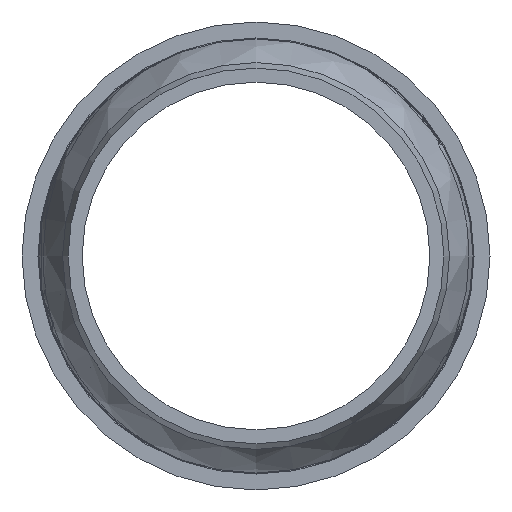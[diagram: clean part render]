
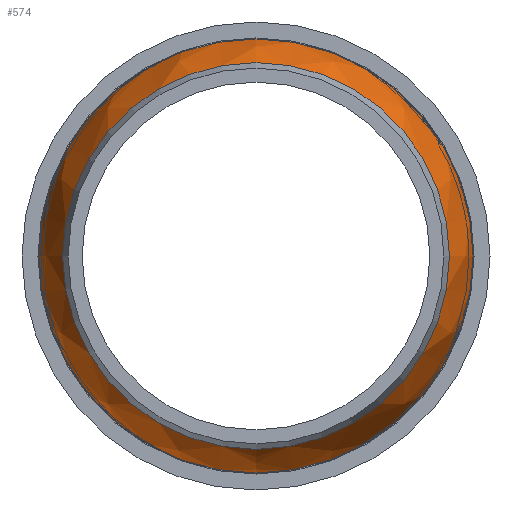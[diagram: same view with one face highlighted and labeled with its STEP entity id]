
A CAD part, left-side view. The second image highlights one B-rep face of the part: STEP entity #574.
In plain terms, the highlighted free-form (B-spline) face has degree [2, 2] with [3, 9] control points.
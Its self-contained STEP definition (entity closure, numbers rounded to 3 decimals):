
#12=(
BOUNDED_CURVE()
B_SPLINE_CURVE(2,(#2121,#2122,#2123),.UNSPECIFIED.,.F.,.F.)
B_SPLINE_CURVE_WITH_KNOTS((3,3),(0.097,0.624),
 .UNSPECIFIED.)
CURVE()
GEOMETRIC_REPRESENTATION_ITEM()
RATIONAL_B_SPLINE_CURVE((1.,0.965,1.))
REPRESENTATION_ITEM('')
);
#14=(
BOUNDED_SURFACE()
B_SPLINE_SURFACE(2,2,((#2094,#2095,#2096,#2097,#2098,#2099,#2100,#2101,
#2102),(#2103,#2104,#2105,#2106,#2107,#2108,#2109,#2110,#2111),(#2112,#2113,
#2114,#2115,#2116,#2117,#2118,#2119,#2120)),.UNSPECIFIED.,.F.,.T.,.F.)
B_SPLINE_SURFACE_WITH_KNOTS((3,3),(3,2,2,2,3),(-0.624,-0.097),
(-3.142,-1.571,0.,1.571,3.142),
 .UNSPECIFIED.)
GEOMETRIC_REPRESENTATION_ITEM()
RATIONAL_B_SPLINE_SURFACE(((1.,0.707,1.,0.707,1.,
0.707,1.,0.707,1.),(0.965,0.683,
0.965,0.683,0.965,0.683,
0.965,0.683,0.965),(1.,0.707,
1.,0.707,1.,0.707,1.,0.707,1.)))
REPRESENTATION_ITEM('')
SURFACE()
);
#147=FACE_OUTER_BOUND('',#206,.T.);
#206=EDGE_LOOP('',(#480,#481,#482,#483,#484,#485,#486));
#234=CIRCLE('',#616,42.2);
#235=CIRCLE('',#617,42.2);
#236=CIRCLE('',#618,42.2);
#242=CIRCLE('',#637,37.6);
#243=CIRCLE('',#638,37.6);
#278=VERTEX_POINT('',#1437);
#287=VERTEX_POINT('',#1829);
#288=VERTEX_POINT('',#1830);
#299=VERTEX_POINT('',#2090);
#300=VERTEX_POINT('',#2091);
#349=EDGE_CURVE('',#287,#288,#234,.T.);
#350=EDGE_CURVE('',#288,#278,#235,.T.);
#351=EDGE_CURVE('',#278,#287,#236,.T.);
#363=EDGE_CURVE('',#299,#300,#242,.T.);
#364=EDGE_CURVE('',#300,#299,#243,.T.);
#365=EDGE_CURVE('',#288,#300,#12,.T.);
#480=ORIENTED_EDGE('',*,*,#349,.F.);
#481=ORIENTED_EDGE('',*,*,#351,.F.);
#482=ORIENTED_EDGE('',*,*,#350,.F.);
#483=ORIENTED_EDGE('',*,*,#365,.T.);
#484=ORIENTED_EDGE('',*,*,#364,.T.);
#485=ORIENTED_EDGE('',*,*,#363,.T.);
#486=ORIENTED_EDGE('',*,*,#365,.F.);
#574=ADVANCED_FACE('',(#147),#14,.F.);
#616=AXIS2_PLACEMENT_3D('',#1831,#712,#713);
#617=AXIS2_PLACEMENT_3D('',#1832,#714,#715);
#618=AXIS2_PLACEMENT_3D('',#1833,#716,#717);
#637=AXIS2_PLACEMENT_3D('',#2092,#754,#755);
#638=AXIS2_PLACEMENT_3D('',#2093,#756,#757);
#712=DIRECTION('center_axis',(1.,0.,0.));
#713=DIRECTION('ref_axis',(0.,0.,
1.));
#714=DIRECTION('center_axis',(1.,0.,0.));
#715=DIRECTION('ref_axis',(0.,0.,
1.));
#716=DIRECTION('center_axis',(1.,0.,0.));
#717=DIRECTION('ref_axis',(0.,0.,
1.));
#754=DIRECTION('center_axis',(1.,0.,0.));
#755=DIRECTION('ref_axis',(0.,0.,
1.));
#756=DIRECTION('center_axis',(1.,0.,0.));
#757=DIRECTION('ref_axis',(0.,0.,
1.));
#1437=CARTESIAN_POINT('',(1008.8,42.2,0.));
#1829=CARTESIAN_POINT('',(1008.8,-42.2,0.));
#1830=CARTESIAN_POINT('',(1008.8,0.,-42.2));
#1831=CARTESIAN_POINT('Origin',(1008.8,0.,
0.));
#1832=CARTESIAN_POINT('Origin',(1008.8,0.,
0.));
#1833=CARTESIAN_POINT('Origin',(1008.8,0.,
0.));
#2090=CARTESIAN_POINT('',(996.6,-37.6,0.));
#2091=CARTESIAN_POINT('',(996.6,0.,-37.6));
#2092=CARTESIAN_POINT('Origin',(996.6,0.,
0.));
#2093=CARTESIAN_POINT('Origin',(996.6,0.,
0.));
#2094=CARTESIAN_POINT('Ctrl Pts',(996.6,0.,
-37.6));
#2095=CARTESIAN_POINT('Ctrl Pts',(996.6,37.6,-37.6));
#2096=CARTESIAN_POINT('Ctrl Pts',(996.6,37.6,0.));
#2097=CARTESIAN_POINT('Ctrl Pts',(996.6,37.6,37.6));
#2098=CARTESIAN_POINT('Ctrl Pts',(996.6,0.,
37.6));
#2099=CARTESIAN_POINT('Ctrl Pts',(996.6,-37.6,37.6));
#2100=CARTESIAN_POINT('Ctrl Pts',(996.6,-37.6,0.));
#2101=CARTESIAN_POINT('Ctrl Pts',(996.6,-37.6,-37.6));
#2102=CARTESIAN_POINT('Ctrl Pts',(996.6,0.,
-37.6));
#2103=CARTESIAN_POINT('Ctrl Pts',(1002.079,0.,
-41.548));
#2104=CARTESIAN_POINT('Ctrl Pts',(1002.079,41.548,-41.548));
#2105=CARTESIAN_POINT('Ctrl Pts',(1002.079,41.548,0.));
#2106=CARTESIAN_POINT('Ctrl Pts',(1002.079,41.548,41.548));
#2107=CARTESIAN_POINT('Ctrl Pts',(1002.079,0.,
41.548));
#2108=CARTESIAN_POINT('Ctrl Pts',(1002.079,-41.548,41.548));
#2109=CARTESIAN_POINT('Ctrl Pts',(1002.079,-41.548,0.));
#2110=CARTESIAN_POINT('Ctrl Pts',(1002.079,-41.548,-41.548));
#2111=CARTESIAN_POINT('Ctrl Pts',(1002.079,0.,
-41.548));
#2112=CARTESIAN_POINT('Ctrl Pts',(1008.8,0.,
-42.2));
#2113=CARTESIAN_POINT('Ctrl Pts',(1008.8,42.2,-42.2));
#2114=CARTESIAN_POINT('Ctrl Pts',(1008.8,42.2,0.));
#2115=CARTESIAN_POINT('Ctrl Pts',(1008.8,42.2,42.2));
#2116=CARTESIAN_POINT('Ctrl Pts',(1008.8,0.,
42.2));
#2117=CARTESIAN_POINT('Ctrl Pts',(1008.8,-42.2,42.2));
#2118=CARTESIAN_POINT('Ctrl Pts',(1008.8,-42.2,0.));
#2119=CARTESIAN_POINT('Ctrl Pts',(1008.8,-42.2,-42.2));
#2120=CARTESIAN_POINT('Ctrl Pts',(1008.8,0.,
-42.2));
#2121=CARTESIAN_POINT('Ctrl Pts',(1008.8,0.,
-42.2));
#2122=CARTESIAN_POINT('Ctrl Pts',(1002.079,0.,
-41.548));
#2123=CARTESIAN_POINT('Ctrl Pts',(996.6,0.,
-37.6));
